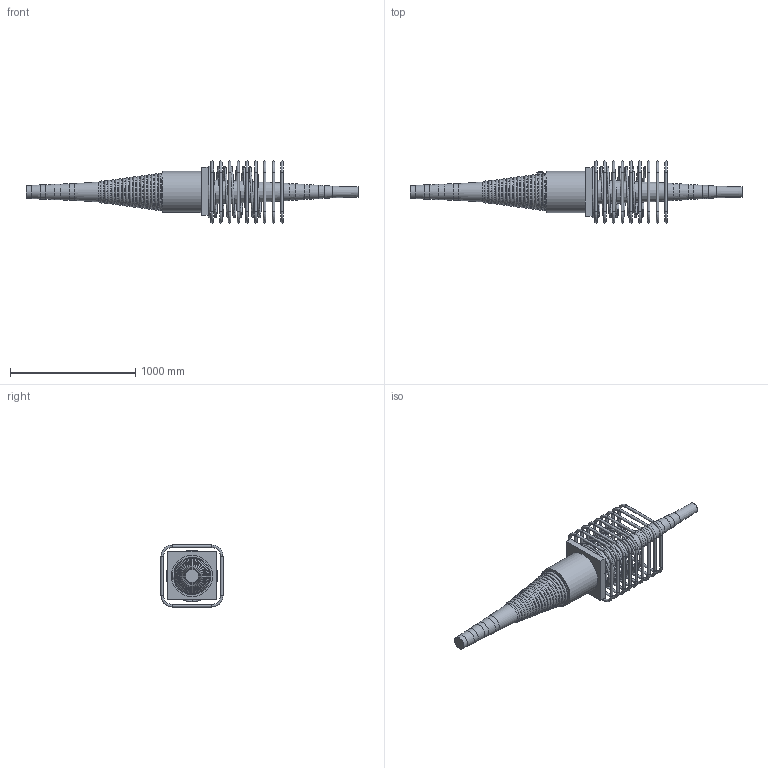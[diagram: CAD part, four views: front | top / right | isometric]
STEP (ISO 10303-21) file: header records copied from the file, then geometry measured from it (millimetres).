
FILE_DESCRIPTION(/* description */ (''),/* implementation_level */ '2;1');
FILE_NAME(/* name */ 'Z:\04 Publications\05 Give-out\BBR\6_3D_Models\BBR VT CONA CMI\BBR VT CONA CMI SP\02406\BBR VT CONA CMI SP 2406_Coupler H Assembly_CS-34,28.stp',/* time_stamp */ '2017-05-09T09:50:22+02:00',/* author */ ('IP'),/* organization */ (''),/* preprocessor_version */ 'ST-DEVELOPER v16.1',/* originating_system */ 'Autodesk Inventor 2016',/* authorisation */ '');
FILE_SCHEMA (('AUTOMOTIVE_DESIGN { 1 0 10303 214 3 1 1 }'));
Products named in the file (1): BBR VT CONA CMI SP 2406_Coupler H Assembly_CS-34,28
Bounding box: 2650.2 x 495 x 495 mm (x, y, z)
Volume: 90328469.5 mm3; surface area: 3343829.9 mm2
Topology: 11 solids, 11 shells, 906 faces, 2340 edges, 1496 vertices
Faces by surface type: bspline 411, plane 264, cylinder 107, torus 100, cone 24
Full cylindrical faces by diameter (mm): 20 x36, 34 x1, 57 x1, 104 x1, 114 x1, 124 x1, 134 x1, 330 x1
Entity records: 40762 total; most frequent: CARTESIAN_POINT 21575, ORIENTED_EDGE 4336, DIRECTION 2761, EDGE_CURVE 2166, VERTEX_POINT 1490, EDGE_LOOP 1136, AXIS2_PLACEMENT_3D 923, LINE 915
